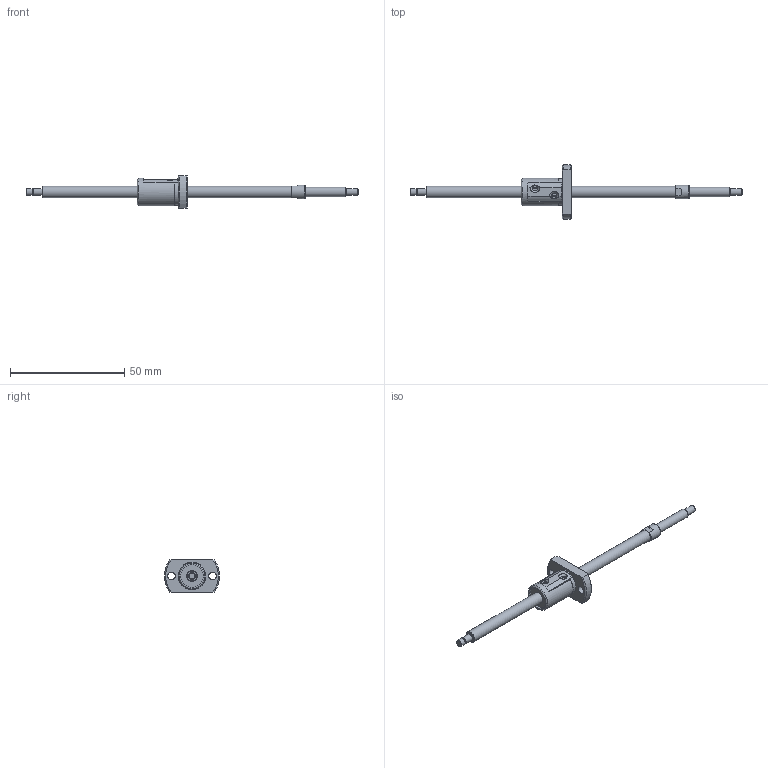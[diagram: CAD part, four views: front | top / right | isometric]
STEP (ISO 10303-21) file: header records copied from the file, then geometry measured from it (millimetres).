
FILE_DESCRIPTION(/* description */ ('STEP AP214'),/* implementation_level */ '2;1');
FILE_NAME(/* name */ 'SG0504-105R145C3B0X(41.5)',/* time_stamp */ '2026-07-20T19:41:36+02:00',/* author */ ('License CC BY-ND 4.0'),/* organization */ ('CADENAS'),/* preprocessor_version */ 'ST-DEVELOPER v20',/* originating_system */ 'PARTsolutions',/* authorisation */ ' ');
FILE_SCHEMA (('AUTOMOTIVE_DESIGN {1 0 10303 214 3 1 1}'));
Length unit declared in the file: millimetre
Products named in the file (3): SG0504-105R145C3B0X(41.5); SG0504-105R145C3B_shaft; SG0504_nut
Assembly tree (2 placements, depth 2):
  SG0504-105R145C3B0X(41.5)
    SG0504-105R145C3B_shaft
    SG0504_nut
Bounding box: 145 x 24 x 14 mm (x, y, z)
Volume: 5206.7 mm3; surface area: 4189.6 mm2
Topology: 2 solids, 2 shells, 79 faces, 187 edges, 122 vertices
Faces by surface type: plane 38, cylinder 26, cone 14, torus 1
Full cylindrical faces by diameter (mm): 2.7 x1, 3 x3, 3.4 x2, 4 x1, 5 x2, 6 x1, 10 x2, 11.6 x1, 12 x1
Entity records: 2195 total; most frequent: CARTESIAN_POINT 406, DIRECTION 374, ORIENTED_EDGE 306, AXIS2_PLACEMENT_3D 157, EDGE_CURVE 153, EDGE_LOOP 120, FACE_BOUND 120, VERTEX_POINT 113
